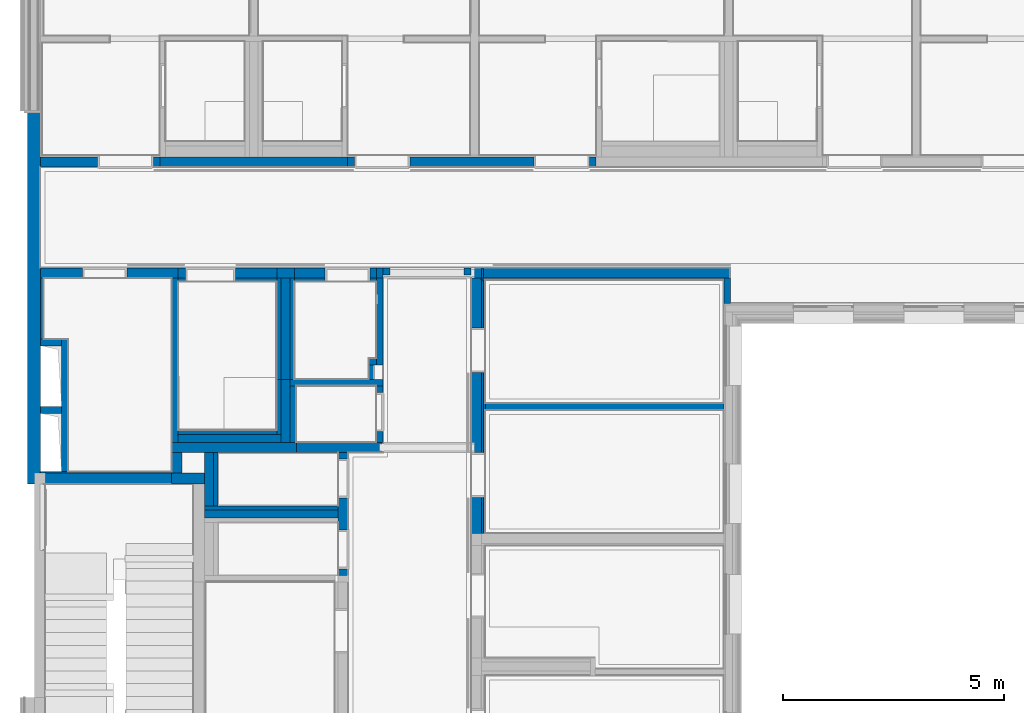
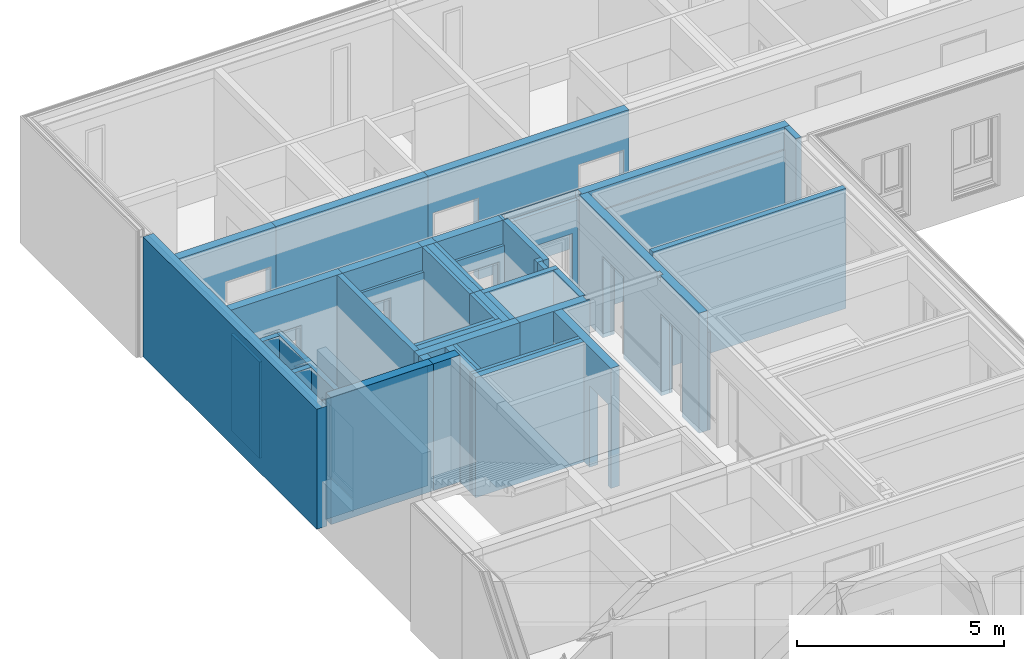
# One storey, part 15 of 222: 49 walls, 18 openings.
"""IFC4 building model written with IfcOpenShell, lengths in metres."""

import ifcopenshell
import ifcopenshell.guid

model = None  # the IFC model being written
_history = None  # IfcOwnerHistory: only IFC2X3 demands one
_inside = {}  # id of a spatial element -> (the spatial element, [elements in it])
_under = {}  # id of a project, library or spatial element -> (it, [spatial elements below it])
_declared = {}  # id of a project -> (the project, [libraries it declares])
_typed = {}  # id of a type object -> (the type object, [elements of that type])
_made_of = {}  # id of a material, layer set ... -> (it, [elements and type objects made of it])


def new_model(schema):
    """Start an empty IFC model of exactly this schema.

    Asked for "IFC4X3", IfcOpenShell would pick the latest addendum, in which some entities
    have other attributes; the version numbers below select the first issue.
    IFC2X3 requires an IfcOwnerHistory on every rooted entity: one is made here for all.
    """
    global model, _history
    if schema == "IFC4X3":
        model = ifcopenshell.file(schema_version=(4, 3, 0, 0))
    else:
        model = ifcopenshell.file(schema=schema)
    _inside.clear()
    _under.clear()
    _declared.clear()
    _typed.clear()
    _made_of.clear()
    _history = None
    if model.schema == "IFC2X3":
        org = make("IfcOrganization", Name="unknown")
        user = make(
            "IfcPersonAndOrganization",
            ThePerson=make("IfcPerson", FamilyName="unknown"),
            TheOrganization=org,
        )
        app = make(
            "IfcApplication",
            ApplicationDeveloper=org,
            Version="unknown",
            ApplicationFullName="unknown",
            ApplicationIdentifier="unknown",
        )
        _history = make(
            "IfcOwnerHistory",
            OwningUser=user,
            OwningApplication=app,
            ChangeAction="ADDED",
            CreationDate=0,
        )
    return model


def make(cls, **values):
    """One entity of the class cls with the attributes given. An attribute that is None is left unset."""
    return model.create_entity(
        cls, **{name: value for name, value in values.items() if value is not None}
    )


def entity(cls, *values):
    """Any entity or typed value of the class cls, its attributes in the order of the schema. None: left unset."""
    e = model.create_entity(cls)
    for i, value in enumerate(values):
        if value is not None:
            e[i] = value
    return e


def rooted(cls, **values):
    """An entity with a GlobalId (a new one), such as an element, a storey or a relation."""
    return make(cls, GlobalId=ifcopenshell.guid.new(), OwnerHistory=_history, **values)


def si_unit(unit_type, name, prefix=None):
    """IfcSIUnit, for example si_unit("LENGTHUNIT", "METRE", prefix="MILLI")."""
    return make("IfcSIUnit", UnitType=unit_type, Prefix=prefix, Name=name)


def converted_unit(unit_type, name, factor, base, dimensions=None, offset=None):
    """IfcConversionBasedUnit, such as the inch: factor (a typed value) times the base unit."""
    return make(
        "IfcConversionBasedUnit"
        if offset is None
        else "IfcConversionBasedUnitWithOffset",
        ConversionOffset=offset,
        Dimensions=None
        if dimensions is None
        else entity("IfcDimensionalExponents", *dimensions),
        UnitType=unit_type,
        Name=name,
        ConversionFactor=make(
            "IfcMeasureWithUnit", ValueComponent=factor, UnitComponent=base
        ),
    )


def derived_unit(unit_type, elements):
    """IfcDerivedUnit: a product of units, each with its exponent."""
    return make(
        "IfcDerivedUnit",
        Elements=[
            make("IfcDerivedUnitElement", Unit=unit, Exponent=power)
            for unit, power in elements
        ],
        UnitType=unit_type,
    )


def assignment(units):
    """IfcUnitAssignment: the units of a project."""
    return None if units is None else make("IfcUnitAssignment", Units=units)


def point(xyz):
    """IfcCartesianPoint."""
    return None if xyz is None else make("IfcCartesianPoint", Coordinates=xyz)


def direction(xyz):
    """IfcDirection."""
    return None if xyz is None else make("IfcDirection", DirectionRatios=xyz)


def frame(location, z_axis=None, x_axis=None):
    """IfcAxis2Placement3D, a coordinate frame: its origin and axes. An axis left out is left unset."""
    return make(
        "IfcAxis2Placement3D",
        Location=point(location),
        Axis=direction(z_axis),
        RefDirection=direction(x_axis),
    )


def frame_2d(location, x_axis=None):
    """IfcAxis2Placement2D, a coordinate frame in the plane: its origin and x axis."""
    return make(
        "IfcAxis2Placement2D", Location=point(location), RefDirection=direction(x_axis)
    )


def origin():
    """The frame at (0, 0, 0) with its axes left unset."""
    return frame((0.0, 0.0, 0.0))


def origin_with_axes():
    """The frame at (0, 0, 0) with the z axis (0, 0, 1) and the x axis (1, 0, 0) written out."""
    return frame((0.0, 0.0, 0.0), z_axis=(0.0, 0.0, 1.0), x_axis=(1.0, 0.0, 0.0))


def place(relative_to, where):
    """IfcLocalPlacement: puts the frame where relative to a parent placement (None: the world)."""
    return make(
        "IfcLocalPlacement", PlacementRelTo=relative_to, RelativePlacement=where
    )


def context(
    kind, dimensions, precision=None, world=None, true_north=None, identifier=None
):
    """IfcGeometricRepresentationContext, for example the 3D "Model" context."""
    return make(
        "IfcGeometricRepresentationContext",
        ContextIdentifier=identifier,
        ContextType=kind,
        CoordinateSpaceDimension=dimensions,
        Precision=precision,
        WorldCoordinateSystem=world,
        TrueNorth=true_north,
    )


def subcontext(parent, identifier, kind, view, scale=None):
    """IfcGeometricRepresentationSubContext, for example "Body" below "Model"."""
    return make(
        "IfcGeometricRepresentationSubContext",
        ContextIdentifier=identifier,
        ContextType=kind,
        ParentContext=parent,
        TargetScale=scale,
        TargetView=view,
    )


def project(units=None, contexts=None):
    """IfcProject with its units and contexts."""
    return rooted(
        "IfcProject",
        Name="project",
        RepresentationContexts=contexts,
        UnitsInContext=assignment(units),
    )


def spatial(cls, under=None, at=None, **own):
    """A site, building, storey or space (cls), placed at a placement, below another one or the project."""
    s = rooted(cls, ObjectPlacement=at, **own)
    if under is not None:
        _under.setdefault(under.id(), (under, []))[1].append(s)
    return s


def polyline(points):
    """IfcPolyline through the points."""
    return make("IfcPolyline", Points=[point(p) for p in points])


def profile(cls, at=None, kind="AREA", **sizes):
    """A parametric profile (cls). Its sizes go by their IFC names, for example OverallWidth=200.0."""
    return make(cls, ProfileType=kind, Position=at, **sizes)


def rectangle(**sizes):
    """IfcRectangleProfileDef."""
    return profile("IfcRectangleProfileDef", **sizes)


def outline(outer, holes=None, kind="AREA"):
    """IfcArbitraryClosedProfileDef: a profile drawn as a closed curve; with holes, ...WithVoids."""
    if holes is None:
        return make("IfcArbitraryClosedProfileDef", ProfileType=kind, OuterCurve=outer)
    return make(
        "IfcArbitraryProfileDefWithVoids",
        ProfileType=kind,
        OuterCurve=outer,
        InnerCurves=holes,
    )


def extrude(swept, where, along, depth):
    """IfcExtrudedAreaSolid: the profile swept, set in the frame where, extruded along a direction by depth."""
    return make(
        "IfcExtrudedAreaSolid",
        SweptArea=swept,
        Position=where,
        ExtrudedDirection=direction(along),
        Depth=depth,
    )


def clip(a, b, op="DIFFERENCE"):
    """IfcBooleanClippingResult: the solid a cut by the half space b."""
    return make(
        "IfcBooleanClippingResult", Operator=op, FirstOperand=a, SecondOperand=b
    )


def bounded_halfspace(plane, agree, where, boundary):
    """IfcPolygonalBoundedHalfSpace: a half space limited to a polygon's prism."""
    return make(
        "IfcPolygonalBoundedHalfSpace",
        BaseSurface=make("IfcPlane", Position=plane),
        AgreementFlag=agree,
        Position=where,
        PolygonalBoundary=boundary,
    )


def shape(context_of_items, identifier, shape_type, items):
    """IfcShapeRepresentation: the items that make up one representation, for example the "Body"."""
    return make(
        "IfcShapeRepresentation",
        ContextOfItems=context_of_items,
        RepresentationIdentifier=identifier,
        RepresentationType=shape_type,
        Items=items,
    )


def material(Name=None, Category=None):
    """IfcMaterial."""
    return make("IfcMaterial", Name=Name, Category=Category)


def made_of(thing, what):
    """Note that an element or type object is made of a material, layer set ...; save() writes the relation."""
    if what is not None:
        _made_of.setdefault(what.id(), (what, []))[1].append(thing)
    return thing


def element(
    cls,
    number,
    at=None,
    inside=None,
    cuts=None,
    type_object=None,
    material=None,
    context=None,
    identifier="Body",
    shape_type=None,
    held_by="IfcProductDefinitionShape",
    body=None,
    shapes=None,
    **own,
):
    """One element of the class cls, such as IfcWall. Its Tag is "e" and its number.

    at: its placement. inside: the storey or other place that contains it. cuts: it is an
    opening in that element (IfcRelVoidsElement). A single representation is given by context,
    identifier, shape_type and body (its items); several are given by shapes. held_by: the class
    of the entity that holds the representations. save() writes the other relations.
    """
    e = rooted(cls, Tag="e%d" % number, ObjectPlacement=at, **own)
    if body is not None:
        shapes = [shape(context, identifier, shape_type, body)]
    if shapes is not None:
        e.Representation = make(held_by, Representations=shapes)
    if inside is not None:
        _inside.setdefault(inside.id(), (inside, []))[1].append(e)
    if cuts is not None:
        rooted(
            "IfcRelVoidsElement", RelatingBuildingElement=cuts, RelatedOpeningElement=e
        )
    if type_object is not None:
        _typed.setdefault(type_object.id(), (type_object, []))[1].append(e)
    return made_of(e, material)


def aggregate(whole, parts):
    """IfcRelAggregates: a whole, such as a stair, and the parts it consists of."""
    return rooted("IfcRelAggregates", RelatingObject=whole, RelatedObjects=parts)


def save(model, path):
    """Write the relations noted so far, then the file.

    IfcRelAggregates (storeys below a building ...), IfcRelContainedInSpatialStructure (elements
    in a storey), IfcRelDefinesByType, IfcRelAssociatesMaterial and IfcRelDeclares: one each for
    every whole, place, type object, material and project.
    """
    for whole, parts in _under.values():
        aggregate(whole, parts)
    for where, things in _inside.values():
        rooted(
            "IfcRelContainedInSpatialStructure",
            RelatedElements=things,
            RelatingStructure=where,
        )
    for kind, things in _typed.values():
        rooted("IfcRelDefinesByType", RelatedObjects=things, RelatingType=kind)
    for what, things in _made_of.values():
        rooted("IfcRelAssociatesMaterial", RelatedObjects=things, RelatingMaterial=what)
    for by, libraries in _declared.values():
        rooted("IfcRelDeclares", RelatingContext=by, RelatedDefinitions=libraries)
    model.write(path)


model = new_model("IFC4")

# Units and contexts
model_context = context("Model", 3, precision=1e-05, world=origin())
body_context = subcontext(model_context, "Body", "Model", "MODEL_VIEW")
ifc_project = project(units=[si_unit("LENGTHUNIT", "METRE"), si_unit("AREAUNIT", "SQUARE_METRE"), si_unit("VOLUMEUNIT", "CUBIC_METRE"), si_unit("MASSUNIT", "GRAM", prefix="KILO"), converted_unit("PLANEANGLEUNIT", "DEGREE", entity("IfcPlaneAngleMeasure", 0.0174532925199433), si_unit("PLANEANGLEUNIT", "RADIAN"), dimensions=[0, 0, 0, 0, 0, 0, 0]), derived_unit("THERMALTRANSMITTANCEUNIT", [(si_unit("POWERUNIT", "WATT"), 1), (si_unit("THERMODYNAMICTEMPERATUREUNIT", "KELVIN"), -1), (si_unit("LENGTHUNIT", "METRE"), -2)]), derived_unit("VOLUMETRICFLOWRATEUNIT", [(si_unit("LENGTHUNIT", "METRE"), 3), (converted_unit("TIMEUNIT", "hour", entity("IfcTimeMeasure", 3600.0), si_unit("TIMEUNIT", "SECOND"), dimensions=[0, 0, 1, 0, 0, 0, 0]), -1), (si_unit("LENGTHUNIT", "METRE"), -1)])], contexts=[model_context])

# Site, building, storey
site_placement = place(None, origin())
site = spatial("IfcSite", under=ifc_project, at=site_placement, Name="Psychiatrie Neubau Wunstorf", CompositionType="ELEMENT")
building_placement = place(site_placement, origin())
building = spatial("IfcBuilding", under=site, at=building_placement, Name="Neubau H2 Stationsgebäude", CompositionType="ELEMENT")
storey_placement = place(building_placement, frame((0.0, 0.0, 3.6)))
storey = spatial("IfcBuildingStorey", under=building, at=storey_placement, Name="H2 Ebene +1", CompositionType="ELEMENT", Elevation=3.6)

# Wall
ifc_material_1 = material(Name="WI-HW 60")
wall_1_placement = place(storey_placement, frame((0.168999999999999, 16.9449998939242, 0.0), z_axis=(0.0, 0.0, 1.0), x_axis=(2.06192924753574e-16, 1.0, 0.0)))
element("IfcWall", 1, at=wall_1_placement, inside=storey, material=ifc_material_1, context=body_context, shape_type="SweptSolid", body=[
    extrude(rectangle(XDim=8.40826268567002, YDim=0.29, at=frame_2d((4.20413134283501, 0.145), x_axis=(1.0, 0.0))), origin_with_axes(), (0.0, 0.0, 1.0), 3.55),
])

# Wall, opening
ifc_material_2 = material(Name="WI-LB")
wall_2_placement = place(storey_placement, frame((7.775, 19.1650101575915, 0.0), z_axis=(0.0, 0.0, 1.0), x_axis=(0.0, -1.0, 0.0)))
wall_2 = element("IfcWall", 2, at=wall_2_placement, inside=storey, material=ifc_material_2, context=body_context, shape_type="SweptSolid", body=[
    extrude(rectangle(XDim=1.27899694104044, YDim=0.15, at=frame_2d((0.639498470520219, 0.075), x_axis=(1.0, 0.0))), origin_with_axes(), (0.0, 0.0, 1.0), 3.55),
])
opening_1_placement = place(wall_2_placement, frame((1.03500010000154, 0.15, 0.0), z_axis=(0.0, -1.0, 0.0), x_axis=(0.0, 0.0, 1.0)))
element("IfcOpeningElement", 3, at=opening_1_placement, cuts=wall_2, Name="Türöffnung", ObjectType="Opening", context=body_context, shape_type="SweptSolid", body=[
    extrude(outline(polyline([(2.41, 0.885000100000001), (2.41, 0.0), (0.0, 0.0), (0.0, 0.885000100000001), (2.41, 0.885000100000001)])), origin_with_axes(), (0.0, 0.0, 1.0), 0.15),
])

# Walls
ifc_material_3 = material(Name="WI-HW 60")
wall_3_placement = place(storey_placement, frame((3.13899999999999, 17.6540132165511, 0.0), z_axis=(0.0, 0.0, 1.0), x_axis=(0.0, -1.0, 0.0)))
element("IfcWall", 4, at=wall_3_placement, inside=storey, material=ifc_material_3, context=body_context, shape_type="SweptSolid", body=[
    extrude(rectangle(XDim=0.459013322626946, YDim=0.232, at=frame_2d((0.229506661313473, 0.116), x_axis=(1.0, 0.0))), origin_with_axes(), (0.0, 0.0, 1.0), 3.55),
])
ifc_material_4 = material(Name="WI-HW 60")
wall_4_placement = place(storey_placement, frame((5.97038908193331, 17.8860132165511, 0.0), z_axis=(0.0, 0.0, 1.0), x_axis=(-1.0, 2.56974841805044e-15, 0.0)))
element("IfcWall", 5, at=wall_4_placement, inside=storey, material=ifc_material_4, context=body_context, shape_type="SweptSolid", body=[
    extrude(rectangle(XDim=2.83138908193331, YDim=0.232, at=frame_2d((1.41569454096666, 0.116), x_axis=(1.0, 0.0))), origin_with_axes(), (0.0, 0.0, 1.0), 3.55),
])

# Wall, openings
ifc_material_5 = material(Name="WI-HW 60")
wall_5_placement = place(storey_placement, frame((7.1409987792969, 14.8750132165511, 0.0), z_axis=(0.0, 0.0, 1.0), x_axis=(0.0, 1.0, 0.0)))
wall_5 = element("IfcWall", 6, at=wall_5_placement, inside=storey, material=ifc_material_5, context=body_context, shape_type="SweptSolid", body=[
    extrude(rectangle(XDim=2.77900000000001, YDim=0.232, at=frame_2d((1.3895, 0.116), x_axis=(1.0, 0.0))), origin_with_axes(), (0.0, 0.0, 1.0), 3.55),
])
opening_2_placement = place(wall_5_placement, frame((1.75500131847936, 0.0, 0.0), z_axis=(0.0, 1.0, 0.0), x_axis=(0.0, 0.0, 1.0)))
element("IfcOpeningElement", 7, at=opening_2_placement, cuts=wall_5, Name="Türöffnung", ObjectType="Opening", context=body_context, shape_type="SweptSolid", body=[
    extrude(outline(polyline([(2.41, 0.885), (2.41, 0.0), (0.0, 0.0), (0.0, 0.885), (2.41, 0.885)])), origin_with_axes(), (0.0, 0.0, 1.0), 0.232),
])
opening_3_placement = place(wall_5_placement, frame((0.15, 0.0, 0.0), z_axis=(0.0, 1.0, 0.0), x_axis=(0.0, 0.0, 1.0)))
element("IfcOpeningElement", 8, at=opening_3_placement, cuts=wall_5, Name="Türöffnung", ObjectType="Opening", context=body_context, shape_type="SweptSolid", body=[
    extrude(outline(polyline([(2.41, 0.885), (2.41, 0.0), (0.0, 0.0), (0.0, 0.885), (2.41, 0.885)])), origin_with_axes(), (0.0, 0.0, 1.0), 0.232),
])

# Walls
ifc_material_6 = material(Name="WI-LB")
wall_6_placement = place(storey_placement, frame((7.925, 19.3150163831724, 0.0), z_axis=(0.0, 0.0, 1.0), x_axis=(-1.0, 9.43855609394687e-13, 0.0)))
element("IfcWall", 9, at=wall_6_placement, inside=storey, material=ifc_material_6, context=body_context, shape_type="SweptSolid", body=[
    extrude(outline(polyline([(-2.10450323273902, -0.150006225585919), (-1.13921428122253e-05, -0.150006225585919), (0.0, 0.0), (-2.10450323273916, 0.0), (-2.10450323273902, -0.150006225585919)])), frame((2.10450323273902, 0.150006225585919, 0.0), z_axis=(0.0, 0.0, 1.0), x_axis=(1.0, 0.0, 0.0)), (0.0, 0.0, 1.0), 3.55),
])
ifc_material_7 = material(Name="WI-LB")
wall_7_placement = place(storey_placement, frame((0.279999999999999, 17.2249998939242, 0.0), z_axis=(0.0, 0.0, 1.0), x_axis=(-1.0, 0.0, 0.0)))
element("IfcWall", 10, at=wall_7_placement, inside=storey, material=ifc_material_7, context=body_context, shape_type="SweptSolid", body=[
    extrude(rectangle(XDim=0.111, YDim=0.0299996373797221, at=frame_2d((0.0554999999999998, 0.0149998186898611), x_axis=(1.0, 0.0))), origin_with_axes(), (0.0, 0.0, 1.0), 3.55),
])
ifc_material_8 = material(Name="WI-LB")
wall_8_placement = place(storey_placement, frame((0.649000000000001, 18.6949995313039, 0.0), z_axis=(0.0, 0.0, 1.0), x_axis=(-1.0, 0.0, 0.0)))
element("IfcWall", 11, at=wall_8_placement, inside=storey, material=ifc_material_8, context=body_context, shape_type="SweptSolid", body=[
    extrude(rectangle(XDim=0.479999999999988, YDim=0.15, at=frame_2d((0.239999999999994, 0.075), x_axis=(1.0, 0.0))), origin_with_axes(), (0.0, 0.0, 1.0), 3.55),
])
ifc_material_9 = material(Name="WI-HW 60")
wall_9_placement = place(storey_placement, frame((7.925, 21.836, 0.0), z_axis=(0.0, 0.0, 1.0), x_axis=(-1.0, 0.0, 0.0)))
element("IfcWall", 12, at=wall_9_placement, inside=storey, material=ifc_material_9, context=body_context, shape_type="Clipping", body=[
    clip(extrude(rectangle(XDim=0.150006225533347, YDim=0.232, at=frame_2d((0.0750031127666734, 0.116), x_axis=(1.0, 0.0))), origin_with_axes(), (0.0, 0.0, 1.0), 3.55), bounded_halfspace(frame((0.0407479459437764, 0.116, 3.35), z_axis=(0.0, 0.0, -1.0), x_axis=(0.0, 1.0, 0.0)), True, origin_with_axes(), polyline([(0.0814958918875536, 0.036), (0.0814958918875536, 0.196), (0.0, 0.196), (0.0, 0.036), (0.0814958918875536, 0.036)]))),
])

# Wall, opening
ifc_material_10 = material(Name="WI-HW 60")
wall_10_placement = place(storey_placement, frame((0.169000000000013, 21.604, 0.0), z_axis=(0.0, 0.0, 1.0), x_axis=(1.0, 4.66406608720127e-15, 0.0)))
wall_10 = element("IfcWall", 13, at=wall_10_placement, inside=storey, material=ifc_material_10, context=body_context, shape_type="SweptSolid", body=[
    extrude(rectangle(XDim=3.12000622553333, YDim=0.232, at=frame_2d((1.56000311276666, 0.116), x_axis=(1.0, 0.0))), origin_with_axes(), (0.0, 0.0, 1.0), 3.55),
])
opening_4_placement = place(wall_10_placement, frame((0.948454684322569, 0.0, 0.0), z_axis=(4.90029472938e-15, 1.0, 0.0), x_axis=(0.0, 0.0, 1.0)))
element("IfcOpeningElement", 14, at=opening_4_placement, cuts=wall_10, Name="SMT", ObjectType="Opening", context=body_context, shape_type="SweptSolid", body=[
    extrude(outline(polyline([(2.41, 1.01), (2.41, 0.0), (0.0, 0.0), (0.0, 1.01), (2.41, 1.01)])), origin_with_axes(), (0.0, 0.0, 1.0), 0.232),
])

# Walls
ifc_material_11 = material(Name="WI-HW 60")
wall_11_placement = place(storey_placement, frame((15.789, 21.836, 0.0), z_axis=(0.0, 0.0, 1.0), x_axis=(-1.0, 0.0, 0.0)))
element("IfcWall", 15, at=wall_11_placement, inside=storey, material=ifc_material_11, context=body_context, shape_type="Clipping", body=[
    clip(extrude(rectangle(XDim=5.87149997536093, YDim=0.232, at=frame_2d((2.93574998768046, 0.116), x_axis=(1.0, 0.0))), origin_with_axes(), (0.0, 0.0, 1.0), 3.55), bounded_halfspace(frame((5.83349793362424, 0.116, 3.35), z_axis=(0.0, 0.0, -1.0), x_axis=(0.0, 1.0, 0.0)), True, origin_with_axes(), polyline([(5.87149997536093, 0.036), (5.87149997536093, 0.196), (5.79549589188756, 0.196), (5.79549589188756, 0.036), (5.87149997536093, 0.036)]))),
])
ifc_material_12 = material(Name="WI-LB")
wall_12_placement = place(storey_placement, frame((15.639, 21.604, 0.0), z_axis=(0.0, 0.0, 1.0), x_axis=(-1.0, 0.0, 0.0)))
element("IfcWall", 16, at=wall_12_placement, inside=storey, material=ifc_material_12, context=body_context, shape_type="SweptSolid", body=[
    extrude(rectangle(XDim=5.48949997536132, YDim=0.04, at=frame_2d((2.74474998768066, 0.02), x_axis=(1.0, 0.0))), origin_with_axes(), (0.0, 0.0, 1.0), 2.9),
])
ifc_material_13 = material(Name="WI-LB")
wall_13_placement = place(storey_placement, frame((7.925, 19.6400101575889, 0.0), z_axis=(0.0, 0.0, 1.0), x_axis=(4.63085237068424e-16, 1.0, 0.0)))
element("IfcWall", 17, at=wall_13_placement, inside=storey, material=ifc_material_13, context=body_context, shape_type="SweptSolid", body=[
    extrude(rectangle(XDim=1.96398984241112, YDim=0.150006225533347, at=frame_2d((0.981994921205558, 0.0750031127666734), x_axis=(1.0, 0.0))), origin_with_axes(), (0.0, 0.0, 1.0), 3.55),
])
ifc_material_14 = material(Name="WI-LB")
wall_14_placement = place(storey_placement, frame((15.639, 18.768, 0.0), z_axis=(0.0, 0.0, 1.0), x_axis=(-1.0, 0.0, 0.0)))
element("IfcWall", 18, at=wall_14_placement, inside=storey, material=ifc_material_14, context=body_context, shape_type="SweptSolid", body=[
    extrude(rectangle(XDim=5.39999997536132, YDim=0.15, at=frame_2d((2.69999998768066, 0.075), x_axis=(1.0, 0.0))), origin_with_axes(), (0.0, 0.0, 1.0), 3.55),
])

# Wall, openings
ifc_material_15 = material(Name="WI-HW 60")
wall_15_placement = place(storey_placement, frame((7.125, 24.1175, 0.0), z_axis=(0.0, 0.0, 1.0), x_axis=(1.0, -6.46751787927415e-16, 0.0)))
wall_15 = element("IfcWall", 19, at=wall_15_placement, inside=storey, material=ifc_material_15, context=body_context, shape_type="SweptSolid", body=[
    extrude(rectangle(XDim=5.625, YDim=0.232, at=frame_2d((2.8125, 0.116), x_axis=(1.0, 0.0))), origin_with_axes(), (0.0, 0.0, 1.0), 3.55),
])
opening_5_placement = place(wall_15_placement, frame((4.21500000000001, 0.0, 0.0), z_axis=(0.0, 1.0, 0.0), x_axis=(0.0, 0.0, 1.0)))
element("IfcOpeningElement", 20, at=opening_5_placement, cuts=wall_15, Name="Türöffnung", ObjectType="Opening", context=body_context, shape_type="SweptSolid", body=[
    extrude(outline(polyline([(2.41, 1.26), (2.41, 0.0), (0.0, 0.0), (0.0, 1.26), (2.41, 1.26)])), origin_with_axes(), (0.0, 0.0, 1.0), 0.232),
])
opening_6_placement = place(wall_15_placement, frame((0.149999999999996, 0.0, 0.0), z_axis=(-6.125368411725e-16, 1.0, 0.0), x_axis=(0.0, 0.0, 1.0)))
element("IfcOpeningElement", 21, at=opening_6_placement, cuts=wall_15, Name="Türöffnung", ObjectType="Opening", context=body_context, shape_type="SweptSolid", body=[
    extrude(outline(polyline([(2.41, 1.26), (2.41, 0.0), (0.0, 0.0), (0.0, 1.26), (2.41, 1.26)])), origin_with_axes(), (0.0, 0.0, 1.0), 0.232),
])

# Walls
ifc_material_16 = material(Name="WI-HW 60")
wall_16_placement = place(storey_placement, frame((2.875, 24.1175, 0.0)))
element("IfcWall", 22, at=wall_16_placement, inside=storey, material=ifc_material_16, context=body_context, shape_type="SweptSolid", body=[
    extrude(rectangle(XDim=4.25, YDim=0.232, at=frame_2d((2.125, 0.116), x_axis=(1.0, 0.0))), origin_with_axes(), (0.0, 0.0, 1.0), 3.55),
])
ifc_material_17 = material(Name="WI-HW 60")
wall_17_placement = place(storey_placement, frame((5.92039963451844, 21.836, 0.0), z_axis=(0.0, 0.0, 1.0), x_axis=(-1.0, 0.0, 0.0)))
element("IfcWall", 23, at=wall_17_placement, inside=storey, material=ifc_material_17, context=body_context, shape_type="SweptSolid", body=[
    extrude(rectangle(XDim=0.4, YDim=0.232, at=frame_2d((0.2, 0.116), x_axis=(1.0, 0.0))), origin_with_axes(), (0.0, 0.0, 1.0), 3.55),
])
ifc_material_18 = material(Name="WI-LB")
wall_18_placement = place(storey_placement, frame((7.6, 19.6400101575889, 0.0)))
element("IfcWall", 24, at=wall_18_placement, inside=storey, material=ifc_material_18, context=body_context, shape_type="SweptSolid", body=[
    extrude(rectangle(XDim=0.17499377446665, YDim=0.15, at=frame_2d((0.0874968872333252, 0.075), x_axis=(1.0, 0.0))), origin_with_axes(), (0.0, 0.0, 1.0), 3.55),
])
ifc_material_19 = material(Name="WI-HW 60")
wall_19_placement = place(storey_placement, frame((7.92499202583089, 17.8860132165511, 0.0), z_axis=(0.0, 0.0, 1.0), x_axis=(-1.0, 0.0, 0.0)))
element("IfcWall", 25, at=wall_19_placement, inside=storey, material=ifc_material_19, context=body_context, shape_type="Clipping", body=[
    clip(extrude(outline(polyline([(-1.95460378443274, -0.232), (-1.76191165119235e-05, -0.232), (0.0, 0.0), (-1.95460378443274, 0.0), (-1.95460378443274, -0.232)])), frame((1.95460378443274, 0.232, 0.0), z_axis=(0.0, 0.0, 1.0), x_axis=(1.0, 0.0, 0.0)), (0.0, 0.0, 1.0), 3.55), bounded_halfspace(frame((0.0407439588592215, 0.116, 3.35), z_axis=(0.0, 0.0, -1.0), x_axis=(0.0, 1.0, 0.0)), True, origin_with_axes(), polyline([(0.0814879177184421, 0.036), (0.0814879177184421, 0.196), (0.0, 0.196), (0.0, 0.036), (0.0814879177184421, 0.036)]))),
])

# Wall, opening
ifc_material_20 = material(Name="WI-HW 60")
wall_20_placement = place(storey_placement, frame((0.168999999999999, 24.1175, 0.0)))
wall_20 = element("IfcWall", 26, at=wall_20_placement, inside=storey, material=ifc_material_20, context=body_context, shape_type="SweptSolid", body=[
    extrude(rectangle(XDim=2.70600000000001, YDim=0.232, at=frame_2d((1.353, 0.116), x_axis=(1.0, 0.0))), origin_with_axes(), (0.0, 0.0, 1.0), 3.55),
])
opening_7_placement = place(wall_20_placement, frame((1.296, 0.0, 0.0), z_axis=(0.0, 1.0, 0.0), x_axis=(0.0, 0.0, 1.0)))
element("IfcOpeningElement", 27, at=opening_7_placement, cuts=wall_20, Name="Türöffnung", ObjectType="Opening", context=body_context, shape_type="SweptSolid", body=[
    extrude(outline(polyline([(2.41, 1.26), (2.41, 0.0), (0.0, 0.0), (0.0, 1.26), (2.41, 1.26)])), origin_with_axes(), (0.0, 0.0, 1.0), 0.232),
])

# Wall
ifc_material_21 = material(Name="WI-LB")
wall_21_placement = place(storey_placement, frame((0.169000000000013, 20.0749995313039, 0.0)))
element("IfcWall", 28, at=wall_21_placement, inside=storey, material=ifc_material_21, context=body_context, shape_type="SweptSolid", body=[
    extrude(rectangle(XDim=0.479999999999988, YDim=0.15, at=frame_2d((0.239999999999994, 0.075), x_axis=(1.0, 0.0))), origin_with_axes(), (0.0, 0.0, 1.0), 3.55),
])

# Wall, openings
ifc_material_22 = material(Name="WI-LB")
wall_22_placement = place(storey_placement, frame((10.2390000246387, 15.8255, 0.0), z_axis=(0.0, 0.0, 1.0), x_axis=(0.0, 1.0, 0.0)))
wall_22 = element("IfcWall", 29, at=wall_22_placement, inside=storey, material=ifc_material_22, context=body_context, shape_type="SweptSolid", body=[
    extrude(rectangle(XDim=5.73849999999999, YDim=0.0395, at=frame_2d((2.86924999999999, 0.01975), x_axis=(1.0, 0.0))), origin_with_axes(), (0.0, 0.0, 1.0), 2.9),
])
opening_8_placement = place(wall_22_placement, frame((1.8285132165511, 0.0395, 0.0), z_axis=(0.0, -1.0, 0.0), x_axis=(0.0, 0.0, 1.0)))
element("IfcOpeningElement", 30, at=opening_8_placement, cuts=wall_22, Name="Türöffnung", ObjectType="Opening", context=body_context, shape_type="SweptSolid", body=[
    extrude(outline(polyline([(2.41, 1.01), (2.41, 0.0), (0.0, 0.0), (0.0, 1.01), (2.41, 1.01)])), origin_with_axes(), (0.0, 0.0, 1.0), 0.0395),
])
opening_9_placement = place(wall_22_placement, frame((4.65249999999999, 0.0395, 0.0), z_axis=(0.0, -1.0, 0.0), x_axis=(0.0, 0.0, 1.0)))
element("IfcOpeningElement", 31, at=opening_9_placement, cuts=wall_22, Name="Türöffnung", ObjectType="Opening", context=body_context, shape_type="SweptSolid", body=[
    extrude(outline(polyline([(2.41, 1.01), (2.41, 0.0), (0.0, 0.0), (0.0, 1.01), (2.41, 1.01)])), origin_with_axes(), (0.0, 0.0, 1.0), 0.0395),
])

ifc_material_23 = material(Name="Installationsraum")
wall_23_placement = place(storey_placement, frame((10.1995000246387, 15.8255, 0.0), z_axis=(0.0, 0.0, 1.0), x_axis=(0.0, 1.0, 0.0)))
wall_23 = element("IfcWall", 32, at=wall_23_placement, inside=storey, material=ifc_material_23, context=body_context, shape_type="SweptSolid", body=[
    extrude(rectangle(XDim=5.73849999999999, YDim=0.05, at=frame_2d((2.86924999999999, 0.025), x_axis=(1.0, 0.0))), origin_with_axes(), (0.0, 0.0, 1.0), 2.9),
    extrude(rectangle(XDim=0.05, YDim=0.232, at=frame_2d((0.116, -0.025), x_axis=(0.0, -1.0))), frame((5.77849999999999, 0.05, 0.0), z_axis=(0.0, 0.0, 1.0), x_axis=(1.0, 0.0, 0.0)), (0.0, 0.0, 1.0), 2.9),
])
opening_10_placement = place(wall_23_placement, frame((1.8285132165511, 0.05, 0.0), z_axis=(0.0, -1.0, 0.0), x_axis=(0.0, 0.0, 1.0)))
element("IfcOpeningElement", 33, at=opening_10_placement, cuts=wall_23, Name="Türöffnung", ObjectType="Opening", context=body_context, shape_type="SweptSolid", body=[
    extrude(outline(polyline([(2.41, 1.01), (2.41, 0.0), (0.0, 0.0), (0.0, 1.01), (2.41, 1.01)])), origin_with_axes(), (0.0, 0.0, 1.0), 0.05),
])
opening_11_placement = place(wall_23_placement, frame((4.65249999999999, 0.05, 0.0), z_axis=(0.0, -1.0, 0.0), x_axis=(0.0, 0.0, 1.0)))
element("IfcOpeningElement", 34, at=opening_11_placement, cuts=wall_23, Name="Türöffnung", ObjectType="Opening", context=body_context, shape_type="SweptSolid", body=[
    extrude(outline(polyline([(2.41, 1.01), (2.41, 0.0), (0.0, 0.0), (0.0, 1.01), (2.41, 1.01)])), origin_with_axes(), (0.0, 0.0, 1.0), 0.05),
])

ifc_material_24 = material(Name="WI-HW 60")
wall_24_placement = place(storey_placement, frame((10.1495000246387, 15.8255, 0.0), z_axis=(0.0, 0.0, 1.0), x_axis=(0.0, 1.0, 0.0)))
wall_24 = element("IfcWall", 35, at=wall_24_placement, inside=storey, material=ifc_material_24, context=body_context, shape_type="Clipping", body=[
    clip(extrude(rectangle(XDim=5.77849999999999, YDim=0.232, at=frame_2d((2.88924999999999, 0.116), x_axis=(1.0, 0.0))), origin_with_axes(), (0.0, 0.0, 1.0), 3.55), bounded_halfspace(frame((1.9445132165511, 0.193997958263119, 3.35), z_axis=(0.0, 0.0, -1.0), x_axis=(-1.0, 0.0, 0.0)), True, origin_with_axes(), polyline([(2.0245132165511, 0.232), (1.8645132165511, 0.232), (1.8645132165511, 0.155995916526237), (2.0245132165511, 0.155995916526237), (2.0245132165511, 0.232)]))),
])
opening_12_placement = place(wall_24_placement, frame((1.8285132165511, 0.232, 0.0), z_axis=(0.0, -1.0, 0.0), x_axis=(0.0, 0.0, 1.0)))
element("IfcOpeningElement", 36, at=opening_12_placement, cuts=wall_24, Name="Türöffnung", ObjectType="Opening", context=body_context, shape_type="SweptSolid", body=[
    extrude(outline(polyline([(2.41, 1.01), (2.41, 0.0), (0.0, 0.0), (0.0, 1.01), (2.41, 1.01)])), origin_with_axes(), (0.0, 0.0, 1.0), 0.232),
])
opening_13_placement = place(wall_24_placement, frame((4.65249999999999, 0.232, 0.0), z_axis=(0.0, -1.0, 0.0), x_axis=(0.0, 0.0, 1.0)))
element("IfcOpeningElement", 37, at=opening_13_placement, cuts=wall_24, Name="Türöffnung", ObjectType="Opening", context=body_context, shape_type="SweptSolid", body=[
    extrude(outline(polyline([(2.41, 1.01), (2.41, 0.0), (0.0, 0.0), (0.0, 1.01), (2.41, 1.01)])), origin_with_axes(), (0.0, 0.0, 1.0), 0.232),
])

# Wall
ifc_material_25 = material(Name="WI-VS")
wall_25_placement = place(storey_placement, frame((0.169000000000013, 21.604, 0.0), z_axis=(0.0, 0.0, 1.0), x_axis=(-6.18311090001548e-17, -1.0, 0.0)))
element("IfcWall", 38, at=wall_25_placement, inside=storey, material=ifc_material_25, context=body_context, shape_type="SweptSolid", body=[
    extrude(rectangle(XDim=1.37900046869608, YDim=0.075, at=frame_2d((0.689500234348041, 0.0375), x_axis=(1.0, 0.0))), origin_with_axes(), (0.0, 0.0, 1.0), 2.85),
])

# Wall, opening
ifc_material_26 = material(Name="WI-LB")
wall_26_placement = place(storey_placement, frame((3.28900622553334, 21.529, 0.0)))
wall_26 = element("IfcWall", 39, at=wall_26_placement, inside=storey, material=ifc_material_26, context=body_context, shape_type="SweptSolid", body=[
    extrude(rectangle(XDim=2.2313934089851, YDim=0.075, at=frame_2d((1.11569670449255, 0.0375), x_axis=(1.0, 0.0))), origin_with_axes(), (0.0, 0.0, 1.0), 2.85),
])
opening_14_placement = place(wall_26_placement, frame((0.160999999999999, 0.0, 0.0), z_axis=(0.0, 1.0, 0.0), x_axis=(0.0, 0.0, 1.0)))
element("IfcOpeningElement", 40, at=opening_14_placement, cuts=wall_26, Name="Türöffnung", ObjectType="Opening", context=body_context, shape_type="SweptSolid", body=[
    extrude(outline(polyline([(2.41, 1.135), (2.41, 0.0), (0.0, 0.0), (0.0, 1.135), (2.41, 1.135)])), origin_with_axes(), (0.0, 0.0, 1.0), 0.075),
])

ifc_material_27 = material(Name="WI-HW 60")
wall_27_placement = place(storey_placement, frame((3.28900622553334, 21.604, 0.0)))
wall_27 = element("IfcWall", 41, at=wall_27_placement, inside=storey, material=ifc_material_27, context=body_context, shape_type="SweptSolid", body=[
    extrude(rectangle(XDim=2.2313934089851, YDim=0.232, at=frame_2d((1.11569670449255, 0.116), x_axis=(1.0, 0.0))), origin_with_axes(), (0.0, 0.0, 1.0), 3.55),
])
opening_15_placement = place(wall_27_placement, frame((0.160999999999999, 0.0, 0.0), z_axis=(0.0, 1.0, 0.0), x_axis=(0.0, 0.0, 1.0)))
element("IfcOpeningElement", 42, at=opening_15_placement, cuts=wall_27, Name="Türöffnung", ObjectType="Opening", context=body_context, shape_type="SweptSolid", body=[
    extrude(outline(polyline([(2.41, 1.135), (2.41, 0.0), (0.0, 0.0), (0.0, 1.135), (2.41, 1.135)])), origin_with_axes(), (0.0, 0.0, 1.0), 0.232),
])

# Walls
ifc_material_28 = material(Name="WI-VS")
wall_28_placement = place(storey_placement, frame((5.52029110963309, 21.604, 0.0), z_axis=(0.0, 0.0, 1.0), x_axis=(0.0, -1.0, 0.0)))
element("IfcWall", 43, at=wall_28_placement, inside=storey, material=ifc_material_28, context=body_context, shape_type="Clipping", body=[
    clip(extrude(rectangle(XDim=2.28898361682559, YDim=0.1, at=frame_2d((1.1444918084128, 0.05), x_axis=(1.0, 0.0))), origin_with_axes(), (0.0, 0.0, 1.0), 3.55), bounded_halfspace(frame((0.0375000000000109, 5.42624426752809e-05, 2.85), z_axis=(0.0, 0.0, 1.0), x_axis=(0.0, 1.0, 0.0)), True, origin_with_axes(), polyline([(0.0750000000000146, 0.0), (0.0750000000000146, 0.000108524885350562), (0.0, 0.000108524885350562), (0.0, 0.0), (0.0750000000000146, 0.0)]))),
])
ifc_material_29 = material(Name="Installationsraum")
wall_29_placement = place(storey_placement, frame((5.62029110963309, 21.604, 0.0), z_axis=(0.0, 0.0, 1.0), x_axis=(0.0, -1.0, 0.0)))
element("IfcWall", 44, at=wall_29_placement, inside=storey, material=ifc_material_29, context=body_context, shape_type="SweptSolid", body=[
    extrude(rectangle(XDim=2.28898361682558, YDim=0.2, at=frame_2d((1.14449180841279, 0.1), x_axis=(1.0, 0.0))), origin_with_axes(), (0.0, 0.0, 1.0), 3.55),
])
ifc_material_30 = material(Name="WI-LB")
wall_30_placement = place(storey_placement, frame((5.82029110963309, 21.604, 0.0), z_axis=(0.0, 0.0, 1.0), x_axis=(0.0, -1.0, 0.0)))
element("IfcWall", 45, at=wall_30_placement, inside=storey, material=ifc_material_30, context=body_context, shape_type="SweptSolid", body=[
    extrude(rectangle(XDim=2.28898361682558, YDim=0.1, at=frame_2d((1.14449180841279, 0.05), x_axis=(1.0, 0.0))), origin_with_axes(), (0.0, 0.0, 1.0), 3.55),
])

# Wall, opening
ifc_material_31 = material(Name="WI-LB")
wall_31_placement = place(storey_placement, frame((5.92039963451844, 21.529, 0.0)))
wall_31 = element("IfcWall", 46, at=wall_31_placement, inside=storey, material=ifc_material_31, context=body_context, shape_type="SweptSolid", body=[
    extrude(rectangle(XDim=1.85459387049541, YDim=0.075, at=frame_2d((0.927296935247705, 0.0375), x_axis=(1.0, 0.0))), origin_with_axes(), (0.0, 0.0, 1.0), 2.85),
])
opening_16_placement = place(wall_31_placement, frame((0.694593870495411, 0.0, 0.0), z_axis=(0.0, 1.0, 0.0), x_axis=(0.0, 0.0, 1.0)))
element("IfcOpeningElement", 47, at=opening_16_placement, cuts=wall_31, Name="Türöffnung", ObjectType="Opening", context=body_context, shape_type="SweptSolid", body=[
    extrude(outline(polyline([(2.41, 1.01), (2.41, 0.0), (0.0, 0.0), (0.0, 1.01), (2.41, 1.01)])), origin_with_axes(), (0.0, 0.0, 1.0), 0.075),
])

ifc_material_32 = material(Name="WI-HW 60")
wall_32_placement = place(storey_placement, frame((5.92039963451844, 21.604, 0.0)))
wall_32 = element("IfcWall", 48, at=wall_32_placement, inside=storey, material=ifc_material_32, context=body_context, shape_type="SweptSolid", body=[
    extrude(rectangle(XDim=1.85459413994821, YDim=0.232, at=frame_2d((0.927297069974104, 0.116), x_axis=(1.0, 0.0))), origin_with_axes(), (0.0, 0.0, 1.0), 3.55),
])
opening_17_placement = place(wall_32_placement, frame((0.694593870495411, 0.0, 0.0), z_axis=(0.0, 1.0, 0.0), x_axis=(0.0, 0.0, 1.0)))
element("IfcOpeningElement", 49, at=opening_17_placement, cuts=wall_32, Name="Türöffnung", ObjectType="Opening", context=body_context, shape_type="SweptSolid", body=[
    extrude(outline(polyline([(2.41, 1.01), (2.41, 0.0), (0.0, 0.0), (0.0, 1.01), (2.41, 1.01)])), origin_with_axes(), (0.0, 0.0, 1.0), 0.232),
])

# Walls
ifc_material_33 = material(Name="Installationsraum")
wall_33_placement = place(storey_placement, frame((3.28900622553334, 17.8860132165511, 0.0), z_axis=(0.0, 0.0, 1.0), x_axis=(1.0, -3.12086222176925e-15, 0.0)))
element("IfcWall", 50, at=wall_33_placement, inside=storey, material=ifc_material_33, context=body_context, shape_type="SweptSolid", body=[
    extrude(rectangle(XDim=2.3313934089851, YDim=0.174961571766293, at=frame_2d((1.16569670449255, 0.0874807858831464), x_axis=(1.0, 0.0))), origin_with_axes(), (0.0, 0.0, 1.0), 3.55),
])
ifc_material_34 = material(Name="WI-VS")
wall_34_placement = place(storey_placement, frame((3.28900622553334, 18.0609747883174, 0.0)))
element("IfcWall", 51, at=wall_34_placement, inside=storey, material=ifc_material_34, context=body_context, shape_type="SweptSolid", body=[
    extrude(rectangle(XDim=2.2313934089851, YDim=0.1, at=frame_2d((1.11569670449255, 0.05), x_axis=(1.0, 0.0))), origin_with_axes(), (0.0, 0.0, 1.0), 3.55),
])
ifc_material_35 = material(Name="Installationsraum")
wall_35_placement = place(storey_placement, frame((3.88, 17.6540132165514, 0.0), z_axis=(0.0, 0.0, 1.0), x_axis=(0.0, -1.0, 0.0)))
element("IfcWall", 52, at=wall_35_placement, inside=storey, material=ifc_material_35, context=body_context, shape_type="SweptSolid", body=[
    extrude(rectangle(XDim=1.20200000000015, YDim=0.21, at=frame_2d((0.601000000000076, 0.105), x_axis=(1.0, 0.0))), origin_with_axes(), (0.0, 0.0, 1.0), 3.55),
])
ifc_material_36 = material(Name="WI-VS")
wall_36_placement = place(storey_placement, frame((4.09, 17.6540132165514, 0.0), z_axis=(0.0, 0.0, 1.0), x_axis=(0.0, -1.0, 0.0)))
element("IfcWall", 53, at=wall_36_placement, inside=storey, material=ifc_material_36, context=body_context, shape_type="SweptSolid", body=[
    extrude(rectangle(XDim=1.20200000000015, YDim=0.0999999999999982, at=frame_2d((0.601000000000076, 0.0499999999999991), x_axis=(1.0, 0.0))), origin_with_axes(), (0.0, 0.0, 1.0), 3.55),
])
ifc_material_37 = material(Name="Installationsraum")
wall_37_placement = place(storey_placement, frame((3.88, 16.1770132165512, 0.0)))
element("IfcWall", 54, at=wall_37_placement, inside=storey, material=ifc_material_37, context=body_context, shape_type="SweptSolid", body=[
    extrude(rectangle(XDim=3.0289987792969, YDim=0.175, at=frame_2d((1.51449938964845, 0.0875), x_axis=(1.0, 0.0))), origin_with_axes(), (0.0, 0.0, 1.0), 3.55),
])
ifc_material_38 = material(Name="WI-VS")
wall_38_placement = place(storey_placement, frame((3.88, 16.3520132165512, 0.0)))
element("IfcWall", 55, at=wall_38_placement, inside=storey, material=ifc_material_38, context=body_context, shape_type="SweptSolid", body=[
    extrude(rectangle(XDim=3.0289987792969, YDim=0.100000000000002, at=frame_2d((1.51449938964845, 0.0500000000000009), x_axis=(1.0, 0.0))), origin_with_axes(), (0.0, 0.0, 1.0), 3.55),
])
ifc_material_39 = material(Name="Installationsraum")
wall_39_placement = place(storey_placement, frame((5.82039963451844, 17.8860132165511, 0.0), z_axis=(0.0, 0.0, 1.0), x_axis=(0.0, 1.0, 0.0)))
element("IfcWall", 56, at=wall_39_placement, inside=storey, material=ifc_material_39, context=body_context, shape_type="SweptSolid", body=[
    extrude(rectangle(XDim=1.42900316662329, YDim=0.2, at=frame_2d((0.714501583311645, 0.1), x_axis=(1.0, 0.0))), origin_with_axes(), (0.0, 0.0, 1.0), 3.55),
])
ifc_material_40 = material(Name="WI-VS")
wall_40_placement = place(storey_placement, frame((5.62039963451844, 18.0609747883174, 0.0), z_axis=(0.0, 0.0, 1.0), x_axis=(0.0, 1.0, 0.0)))
element("IfcWall", 57, at=wall_40_placement, inside=storey, material=ifc_material_40, context=body_context, shape_type="SweptSolid", body=[
    extrude(rectangle(XDim=1.254041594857, YDim=0.1, at=frame_2d((0.627020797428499, 0.05), x_axis=(1.0, 0.0))), origin_with_axes(), (0.0, 0.0, 1.0), 3.55),
])

# Wall, opening
ifc_material_41 = material(Name="WI-LW 60")
wall_41_placement = place(storey_placement, frame((9.9175, 21.836, 0.0), z_axis=(0.0, 0.0, 1.0), x_axis=(-1.0, 0.0, 0.0)))
wall_41 = element("IfcWall", 58, at=wall_41_placement, inside=storey, material=ifc_material_41, context=body_context, shape_type="Clipping", body=[
    clip(extrude(rectangle(XDim=1.9925, YDim=0.155, at=frame_2d((0.99625, 0.0775), x_axis=(1.0, 0.0))), origin_with_axes(), (0.0, 0.0, 1.0), 3.55), bounded_halfspace(frame((0.99625, 0.0955, 3.35), z_axis=(0.0, 0.0, -1.0), x_axis=(-1.0, 0.0, 0.0)), True, origin_with_axes(), polyline([(1.9925, 0.155), (0.0, 0.155), (0.0, 0.036), (1.9925, 0.036), (1.9925, 0.155)]))),
])
opening_18_placement = place(wall_41_placement, frame((1.8375, 0.155, 0.0), z_axis=(0.0, -1.0, 0.0), x_axis=(0.0, 0.0, 1.0)))
element("IfcOpeningElement", 59, at=opening_18_placement, cuts=wall_41, Name="Türöffnung", ObjectType="Opening", context=body_context, shape_type="SweptSolid", body=[
    extrude(outline(polyline([(2.41, 1.6825), (2.41, 0.0), (0.0, 0.0), (0.0, 1.6825), (2.41, 1.6825)])), origin_with_axes(), (0.0, 0.0, 1.0), 0.155),
])

# Walls
ifc_material_42 = material(Name="WI-LB")
wall_42_placement = place(storey_placement, frame((15.639, 21.604, 0.0), z_axis=(0.0, 0.0, 1.0), x_axis=(0.0, -1.0, 0.0)))
element("IfcWall", 60, at=wall_42_placement, inside=storey, material=ifc_material_42, context=body_context, shape_type="SweptSolid", body=[
    extrude(rectangle(XDim=0.567999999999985, YDim=0.15, at=frame_2d((0.283999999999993, 0.075), x_axis=(1.0, 0.0))), origin_with_axes(), (0.0, 0.0, 1.0), 3.55),
])
ifc_material_43 = material(Name="WI-LB")
wall_43_placement = place(storey_placement, frame((3.28900622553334, 17.8860132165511, 0.0), z_axis=(0.0, 0.0, 1.0), x_axis=(2.44620208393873e-16, 1.0, 0.0)))
element("IfcWall", 61, at=wall_43_placement, inside=storey, material=ifc_material_43, context=body_context, shape_type="SweptSolid", body=[
    extrude(rectangle(XDim=3.71798678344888, YDim=0.150006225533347, at=frame_2d((1.85899339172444, 0.0750031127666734), x_axis=(1.0, 0.0))), origin_with_axes(), (0.0, 0.0, 1.0), 3.55),
])
ifc_material_44 = material(Name="WI-LB")
wall_44_placement = place(storey_placement, frame((5.9703890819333, 17.6650809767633, 0.0), z_axis=(0.0, 0.0, 1.0), x_axis=(7.59444675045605e-05, 0.999999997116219, 0.0)))
element("IfcWall", 62, at=wall_44_placement, inside=storey, material=ifc_material_44, context=body_context, shape_type="SweptSolid", body=[
    extrude(outline(polyline([(1.13908687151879e-05, -0.149989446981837), (1.49994057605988, -0.149989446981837), (1.49992918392, 1.67785813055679e-05), (0.220932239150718, 1.67785813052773e-05), (0.220943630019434, -0.149972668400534), (1.13908687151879e-05, -0.149989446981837)])), frame((-1.13908687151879e-05, 0.149989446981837, 0.0), z_axis=(0.0, 0.0, 1.0), x_axis=(1.0, 0.0, 0.0)), (0.0, 0.0, 1.0), 3.55),
])
ifc_material_45 = material(Name="WI-LB")
wall_45_placement = place(storey_placement, frame((7.725, 19.3150163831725, 0.0), z_axis=(0.0, 0.0, 1.0), x_axis=(0.0, 1.0, 0.0)))
element("IfcWall", 63, at=wall_45_placement, inside=storey, material=ifc_material_45, context=body_context, shape_type="SweptSolid", body=[
    extrude(rectangle(XDim=0.324993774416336, YDim=0.125, at=frame_2d((0.162496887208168, 0.0625), x_axis=(1.0, 0.0))), origin_with_axes(), (0.0, 0.0, 1.0), 3.55),
])
ifc_material_46 = material(Name="WI-LB")
wall_46_placement = place(storey_placement, frame((0.649000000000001, 20.2249995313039, 0.0), z_axis=(0.0, 0.0, 1.0), x_axis=(-1.13686837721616e-16, -1.0, 0.0)))
element("IfcWall", 64, at=wall_46_placement, inside=storey, material=ifc_material_46, context=body_context, shape_type="SweptSolid", body=[
    extrude(rectangle(XDim=3.0, YDim=0.15, at=frame_2d((1.5, 0.075), x_axis=(1.0, 0.0))), origin_with_axes(), (0.0, 0.0, 1.0), 3.55),
])
ifc_material_47 = material(Name="WI-STB")
wall_47_placement = place(storey_placement, frame((3.88, 17.1949998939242, 0.0), z_axis=(0.0, 0.0, 1.0), x_axis=(-1.0, 0.0, 0.0)))
element("IfcWall", 65, at=wall_47_placement, inside=storey, material=ifc_material_47, context=body_context, shape_type="SweptSolid", body=[
    extrude(rectangle(XDim=0.741000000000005, YDim=0.25, at=frame_2d((0.370500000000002, 0.125), x_axis=(1.0, 0.0))), origin_with_axes(), (0.0, 0.0, 1.0), 3.75),
])
ifc_material_48 = material(Name="WI-LB")
wall_48_placement = place(storey_placement, frame((3.13899999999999, 17.2249995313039, 0.0), z_axis=(0.0, 0.0, 1.0), x_axis=(-1.0, 0.0, 0.0)))
element("IfcWall", 66, at=wall_48_placement, inside=storey, material=ifc_material_48, context=body_context, shape_type="SweptSolid", body=[
    extrude(rectangle(XDim=2.859, YDim=0.0299996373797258, at=frame_2d((1.4295, 0.0149998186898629), x_axis=(1.0, 0.0))), origin_with_axes(), (0.0, 0.0, 1.0), 3.55),
])
ifc_material_49 = material(Name="WI-STB")
wall_49_placement = place(storey_placement, frame((3.13899999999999, 17.1949998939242, 0.0), z_axis=(0.0, 0.0, 1.0), x_axis=(-1.0, 0.0, 0.0)))
element("IfcWall", 67, at=wall_49_placement, inside=storey, material=ifc_material_49, context=body_context, shape_type="SweptSolid", body=[
    extrude(rectangle(XDim=2.859, YDim=0.25, at=frame_2d((1.4295, 0.125), x_axis=(1.0, 0.0))), origin_with_axes(), (0.0, 0.0, 1.0), 3.75),
])

save(model, "model.ifc")
